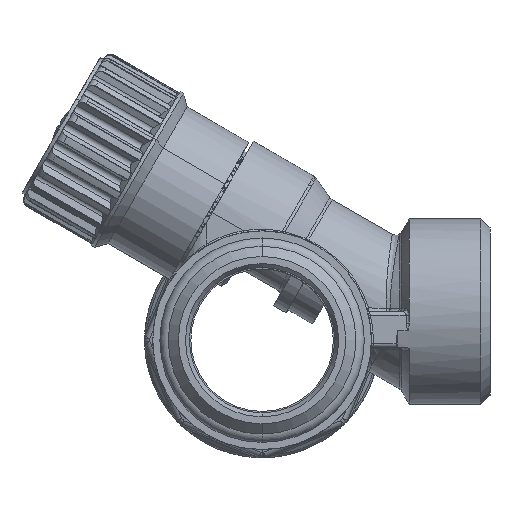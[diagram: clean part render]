
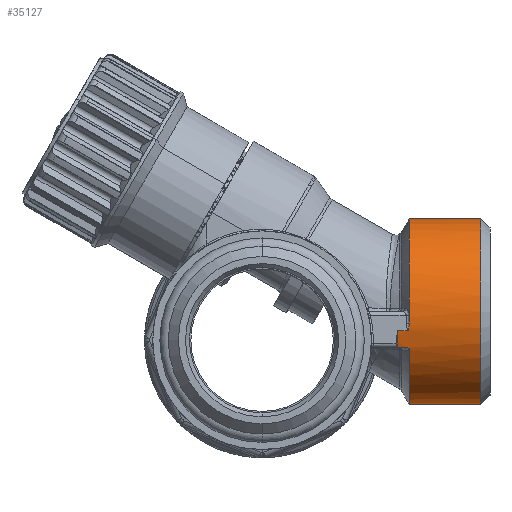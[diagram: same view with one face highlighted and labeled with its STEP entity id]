
A CAD part, left-side view. The second image highlights one B-rep face of the part: STEP entity #35127.
In plain terms, the highlighted cylindrical face has radius 13.025 mm (diameter 26.05 mm), a partial arc.
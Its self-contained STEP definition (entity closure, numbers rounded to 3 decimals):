
#236 = CARTESIAN_POINT ( 'NONE',  ( 25.5, -75., -9.025 ) ) ;
#393 = EDGE_CURVE ( 'NONE', #37952, #13467, #16942, .T. ) ;
#855 = EDGE_CURVE ( 'NONE', #25186, #13467, #29529, .T. ) ;
#2232 = DIRECTION ( 'NONE',  ( 0., 1., 0. ) ) ;
#2869 = ORIENTED_EDGE ( 'NONE', *, *, #14473, .F. ) ;
#3157 = CARTESIAN_POINT ( 'NONE',  ( 12.726, -20.53, 1.455 ) ) ;
#3399 = CIRCLE ( 'NONE', #31153, 13.025 ) ;
#3656 = AXIS2_PLACEMENT_3D ( 'NONE', #12381, #8925, #9419 ) ;
#4005 = ORIENTED_EDGE ( 'NONE', *, *, #10470, .F. ) ;
#4293 = ORIENTED_EDGE ( 'NONE', *, *, #29697, .F. ) ;
#4741 = VERTEX_POINT ( 'NONE', #19555 ) ;
#4996 = VERTEX_POINT ( 'NONE', #29963 ) ;
#5278 = CARTESIAN_POINT ( 'NONE',  ( 13.473, -75., -1. ) ) ;
#5402 = VERTEX_POINT ( 'NONE', #40828 ) ;
#5908 = CARTESIAN_POINT ( 'NONE',  ( 12.717, -20.547, 1.5 ) ) ;
#6975 = CARTESIAN_POINT ( 'NONE',  ( 13.487, -20.445, -1.035 ) ) ;
#7977 = CARTESIAN_POINT ( 'NONE',  ( 12.508, -20.668, 3.066 ) ) ;
#8072 = ORIENTED_EDGE ( 'NONE', *, *, #31912, .F. ) ;
#8102 = DIRECTION ( 'NONE',  ( 0., 0., -1. ) ) ;
#8115 = B_SPLINE_CURVE_WITH_KNOTS ( 'NONE', 3,
 ( #8225, #19867, #30569, #26836, #41986, #7977, #39002 ),
 .UNSPECIFIED., .F., .F.,
 ( 4, 3, 4 ),
 ( 0., 0., 0.001 ),
 .UNSPECIFIED. ) ;
#8225 = CARTESIAN_POINT ( 'NONE',  ( 12.574, -20.658, 2.396 ) ) ;
#8699 = EDGE_CURVE ( 'NONE', #4996, #32530, #27493, .T. ) ;
#8827 = VECTOR ( 'NONE', #15111, 1000. ) ;
#8925 = DIRECTION ( 'NONE',  ( 0., -1., 0. ) ) ;
#9191 = VERTEX_POINT ( 'NONE', #41294 ) ;
#9419 = DIRECTION ( 'NONE',  ( 0., 0., -1. ) ) ;
#10206 = CARTESIAN_POINT ( 'NONE',  ( 13.473, -20.325, -1. ) ) ;
#10470 = EDGE_CURVE ( 'NONE', #26875, #36379, #31531, .T. ) ;
#12018 = CARTESIAN_POINT ( 'NONE',  ( 25.5, -20.668, 4. ) ) ;
#12381 = CARTESIAN_POINT ( 'NONE',  ( 25.5, -19., 4. ) ) ;
#12836 = CARTESIAN_POINT ( 'NONE',  ( 12.75, -20.413, 1.338 ) ) ;
#12914 = CARTESIAN_POINT ( 'NONE',  ( 12.75, -20.389, 1.338 ) ) ;
#12966 = DIRECTION ( 'NONE',  ( 0., 1., 0. ) ) ;
#13467 = VERTEX_POINT ( 'NONE', #42367 ) ;
#14302 = CARTESIAN_POINT ( 'NONE',  ( 12.738, -20.491, 1.395 ) ) ;
#14473 = EDGE_CURVE ( 'NONE', #36379, #37952, #46526, .T. ) ;
#15111 = DIRECTION ( 'NONE',  ( 0., -1., 0. ) ) ;
#15481 = CARTESIAN_POINT ( 'NONE',  ( 13.645, -20.668, -1.396 ) ) ;
#15487 = DIRECTION ( 'NONE',  ( 0., 0., -1. ) ) ;
#16026 = CYLINDRICAL_SURFACE ( 'NONE', #30016, 13.025 ) ;
#16942 = CIRCLE ( 'NONE', #44717, 13.025 ) ;
#17874 = CARTESIAN_POINT ( 'NONE',  ( 13.597, -20.657, -1.289 ) ) ;
#19555 = CARTESIAN_POINT ( 'NONE',  ( 13.473, -19., -1. ) ) ;
#19595 = VERTEX_POINT ( 'NONE', #15481 ) ;
#19867 = CARTESIAN_POINT ( 'NONE',  ( 12.558, -20.663, 2.529 ) ) ;
#21079 = CIRCLE ( 'NONE', #3656, 13.025 ) ;
#22088 = CARTESIAN_POINT ( 'NONE',  ( 13.553, -20.611, -1.189 ) ) ;
#23686 = DIRECTION ( 'NONE',  ( 0., -1., 0. ) ) ;
#23854 = B_SPLINE_CURVE_WITH_KNOTS ( 'NONE', 3,
 ( #48169, #44469, #17874, #22088, #29069, #6975, #10206, #40730 ),
 .UNSPECIFIED., .F., .F.,
 ( 4, 2, 2, 4 ),
 ( 0., 0., 0., 0.001 ),
 .UNSPECIFIED. ) ;
#24511 = ORIENTED_EDGE ( 'NONE', *, *, #855, .T. ) ;
#24992 = CARTESIAN_POINT ( 'NONE',  ( 12.574, -20.658, 2.396 ) ) ;
#25088 = CARTESIAN_POINT ( 'NONE',  ( 25.5, -30.725, 17.025 ) ) ;
#25186 = VERTEX_POINT ( 'NONE', #43040 ) ;
#25432 = VECTOR ( 'NONE', #27667, 1000. ) ;
#26836 = CARTESIAN_POINT ( 'NONE',  ( 12.531, -20.666, 2.798 ) ) ;
#26875 = VERTEX_POINT ( 'NONE', #31524 ) ;
#27428 = ORIENTED_EDGE ( 'NONE', *, *, #38190, .T. ) ;
#27493 = LINE ( 'NONE', #39422, #48819 ) ;
#27541 = AXIS2_PLACEMENT_3D ( 'NONE', #32030, #2232, #47148 ) ;
#27667 = DIRECTION ( 'NONE',  ( 0., -1., 0. ) ) ;
#27826 = ORIENTED_EDGE ( 'NONE', *, *, #38001, .F. ) ;
#27995 = CARTESIAN_POINT ( 'NONE',  ( 12.748, -20.437, 1.347 ) ) ;
#29069 = CARTESIAN_POINT ( 'NONE',  ( 13.533, -20.576, -1.143 ) ) ;
#29221 = CARTESIAN_POINT ( 'NONE',  ( 12.691, -20.589, 1.636 ) ) ;
#29529 = LINE ( 'NONE', #236, #8827 ) ;
#29697 = EDGE_CURVE ( 'NONE', #9191, #4741, #46741, .T. ) ;
#29963 = CARTESIAN_POINT ( 'NONE',  ( 12.75, -19., 1.338 ) ) ;
#30016 = AXIS2_PLACEMENT_3D ( 'NONE', #42850, #42107, #8102 ) ;
#30294 = VECTOR ( 'NONE', #12966, 1000. ) ;
#30460 = EDGE_CURVE ( 'NONE', #25186, #19595, #3399, .T. ) ;
#30569 = CARTESIAN_POINT ( 'NONE',  ( 12.543, -20.665, 2.663 ) ) ;
#31153 = AXIS2_PLACEMENT_3D ( 'NONE', #12018, #41828, #49020 ) ;
#31509 = ORIENTED_EDGE ( 'NONE', *, *, #30460, .F. ) ;
#31524 = CARTESIAN_POINT ( 'NONE',  ( 12.5, -20.668, 3.201 ) ) ;
#31531 = CIRCLE ( 'NONE', #27541, 13.025 ) ;
#31912 = EDGE_CURVE ( 'NONE', #32530, #5402, #47771, .T. ) ;
#32030 = CARTESIAN_POINT ( 'NONE',  ( 25.5, -20.668, 4. ) ) ;
#32479 = CARTESIAN_POINT ( 'NONE',  ( 12.674, -20.604, 1.73 ) ) ;
#32530 = VERTEX_POINT ( 'NONE', #12914 ) ;
#32957 = CARTESIAN_POINT ( 'NONE',  ( 12.626, -20.642, 2.013 ) ) ;
#34108 = ORIENTED_EDGE ( 'NONE', *, *, #393, .F. ) ;
#35127 = ADVANCED_FACE ( 'NONE', ( #38386 ), #16026, .T. ) ;
#35620 = CARTESIAN_POINT ( 'NONE',  ( 25.5, -75., 17.025 ) ) ;
#36163 = EDGE_LOOP ( 'NONE', ( #2869, #4005, #39937, #8072, #47249, #27428, #4293, #27826, #31509, #24511, #34108 ) ) ;
#36379 = VERTEX_POINT ( 'NONE', #41146 ) ;
#36661 = CARTESIAN_POINT ( 'NONE',  ( 12.598, -20.651, 2.204 ) ) ;
#37952 = VERTEX_POINT ( 'NONE', #25088 ) ;
#38001 = EDGE_CURVE ( 'NONE', #19595, #9191, #23854, .T. ) ;
#38190 = EDGE_CURVE ( 'NONE', #4996, #4741, #21079, .T. ) ;
#38386 = FACE_OUTER_BOUND ( 'NONE', #36163, .T. ) ;
#38679 = DIRECTION ( 'NONE',  ( 0., -1., 0. ) ) ;
#39002 = CARTESIAN_POINT ( 'NONE',  ( 12.5, -20.668, 3.201 ) ) ;
#39422 = CARTESIAN_POINT ( 'NONE',  ( 12.75, -75., 1.338 ) ) ;
#39937 = ORIENTED_EDGE ( 'NONE', *, *, #48679, .F. ) ;
#40404 = CARTESIAN_POINT ( 'NONE',  ( 12.742, -20.476, 1.376 ) ) ;
#40730 = CARTESIAN_POINT ( 'NONE',  ( 13.473, -20.206, -1. ) ) ;
#40828 = CARTESIAN_POINT ( 'NONE',  ( 12.574, -20.658, 2.396 ) ) ;
#41146 = CARTESIAN_POINT ( 'NONE',  ( 25.5, -20.668, 17.025 ) ) ;
#41294 = CARTESIAN_POINT ( 'NONE',  ( 13.473, -20.206, -1. ) ) ;
#41828 = DIRECTION ( 'NONE',  ( 0., 1., 0. ) ) ;
#41986 = CARTESIAN_POINT ( 'NONE',  ( 12.518, -20.668, 2.932 ) ) ;
#42107 = DIRECTION ( 'NONE',  ( 0., -1., 0. ) ) ;
#42367 = CARTESIAN_POINT ( 'NONE',  ( 25.5, -30.725, -9.025 ) ) ;
#42559 = CARTESIAN_POINT ( 'NONE',  ( 25.5, -30.725, 4. ) ) ;
#42850 = CARTESIAN_POINT ( 'NONE',  ( 25.5, -75., 4. ) ) ;
#43040 = CARTESIAN_POINT ( 'NONE',  ( 25.5, -20.668, -9.025 ) ) ;
#44469 = CARTESIAN_POINT ( 'NONE',  ( 13.621, -20.668, -1.342 ) ) ;
#44717 = AXIS2_PLACEMENT_3D ( 'NONE', #42559, #23686, #15487 ) ;
#46526 = LINE ( 'NONE', #35620, #25432 ) ;
#46741 = LINE ( 'NONE', #5278, #30294 ) ;
#46863 = CARTESIAN_POINT ( 'NONE',  ( 12.75, -20.389, 1.338 ) ) ;
#47148 = DIRECTION ( 'NONE',  ( 0., 0., -1. ) ) ;
#47249 = ORIENTED_EDGE ( 'NONE', *, *, #8699, .F. ) ;
#47771 = B_SPLINE_CURVE_WITH_KNOTS ( 'NONE', 3,
 ( #46863, #12836, #27995, #40404, #14302, #3157, #5908, #29221, #32479, #32957, #36661, #24992 ),
 .UNSPECIFIED., .F., .F.,
 ( 4, 2, 2, 2, 2, 4 ),
 ( 0., 0., 0., 0., 0.001, 0.001 ),
 .UNSPECIFIED. ) ;
#48169 = CARTESIAN_POINT ( 'NONE',  ( 13.645, -20.668, -1.396 ) ) ;
#48679 = EDGE_CURVE ( 'NONE', #5402, #26875, #8115, .T. ) ;
#48819 = VECTOR ( 'NONE', #38679, 1000. ) ;
#49020 = DIRECTION ( 'NONE',  ( 0., 0., -1. ) ) ;
